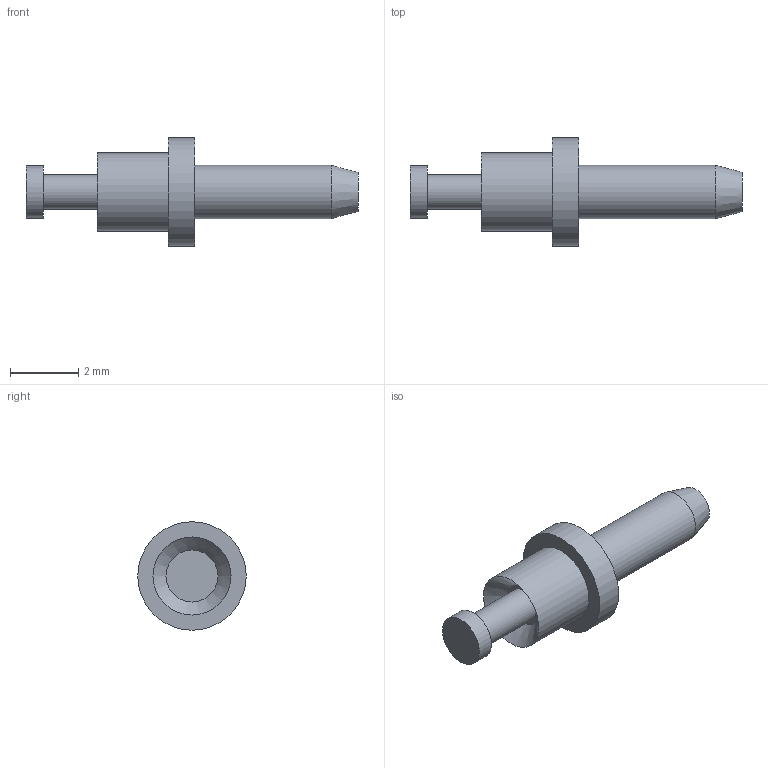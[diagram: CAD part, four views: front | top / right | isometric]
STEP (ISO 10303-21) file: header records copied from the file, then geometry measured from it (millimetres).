
FILE_DESCRIPTION(/* description */ (''),/* implementation_level */ '2;1');
FILE_NAME(/* name */ 'Z:\STEP folder\460320502.ipt.stp',/* time_stamp */ '2016-12-21T13:05:39+00:00',/* author */ ('Paul Karlsons'),/* organization */ (''),/* preprocessor_version */ 'ST-DEVELOPER v15.2',/* originating_system */ 'Autodesk Inventor 2014',/* authorisation */ '');
FILE_SCHEMA (('AUTOMOTIVE_DESIGN { 1 0 10303 214 3 1 1 }'));
Length unit declared in the file: millimetre
Products named in the file (1): 460320502
Bounding box: 9.72 x 3.17 x 3.17 mm (x, y, z)
Volume: 25 mm3; surface area: 73.2 mm2
Topology: 1 solids, 1 shells, 13 faces, 19 edges, 12 vertices
Faces by surface type: plane 6, cylinder 5, cone 2
Full cylindrical faces by diameter (mm): 1.016 x1, 1.524 x1, 1.574 x1, 2.286 x1, 3.175 x1
Entity records: 275 total; most frequent: DIRECTION 52, CARTESIAN_POINT 38, AXIS2_PLACEMENT_3D 26, EDGE_LOOP 24, ORIENTED_EDGE 24, FACE_BOUND 13, ADVANCED_FACE 13, CIRCLE 12
